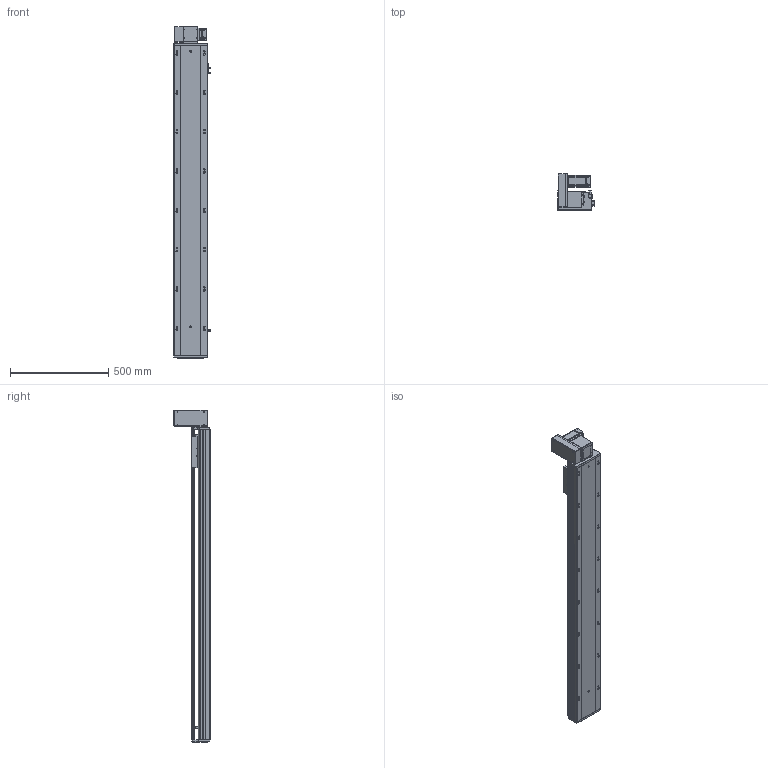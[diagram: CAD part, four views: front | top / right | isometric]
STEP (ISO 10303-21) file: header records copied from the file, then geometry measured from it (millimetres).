
FILE_DESCRIPTION (( 'STEP AP203' ), '1' );
FILE_NAME ('RY170-T-300-UL-P400W.SLDASM_1300.step', '2021-03-02T02:13:17', ( '盈信电脑' ), ( '东莞市道滘镇水果街19号' ), 'SwSTEP 2.0', 'SolidWorks 2012', '' );
FILE_SCHEMA (( 'CONFIG_CONTROL_DESIGN' ));
Products named in the file (18): RY170-T蹟翐M4; RY170同步轮电机安装板(400W); RY170-T-300-UL-P400W.SLDASM_1300; 15; RY170-T肮祭謫裔啣; RY120-T主同步轮轴承压盖; RY170肮祭謫萇儂欶; 滅袉蝶18-10; RY170肮祭謫ヶ裔啣; RY170-T肮祭湍揤踡輸2; RY170翋肮祭謫釱; RY170-T肮祭湍揤踡輸1; RY170外置感应片(200共用）; RY170綴裔啣; 覜茼ん672; RY170-T-300肮祭謫倰第菁釱-DL_1300; RY170肮祭湍臏賑輸; RY170-T-300肮祭謫倰第裔啣-DL_1300
Assembly tree (20 placements, depth 2):
  RY170-T-300-UL-P400W.SLDASM_1300
    RY170-T-300肮祭謫倰第菁釱-DL_1300
    RY170肮祭湍臏賑輸
    RY170-T-300肮祭謫倰第裔啣-DL_1300
    RY170綴裔啣
    覜茼ん672  x3
    RY170外置感应片(200共用）
    RY170肮祭謫ヶ裔啣
    RY170翋肮祭謫釱
    RY170-T肮祭湍揤踡輸1
    RY170-T肮祭湍揤踡輸2
    RY170-T肮祭謫裔啣
    滅袉蝶18-10  x2
    RY120-T主同步轮轴承压盖
    RY170肮祭謫萇儂欶
    RY170同步轮电机安装板(400W)
    RY170-T蹟翐M4
    15
Bounding box: 183.7 x 184 x 1688 mm (x, y, z)
Volume: 8133917.7 mm3; surface area: 2764739.2 mm2
Topology: 20 solids, 20 shells, 2633 faces, 7334 edges, 4681 vertices
Faces by surface type: cylinder 1196, plane 1147, cone 260, bspline 30
Entity records: 83720 total; most frequent: CARTESIAN_POINT 18653, ORIENTED_EDGE 13264, DIRECTION 13076, EDGE_CURVE 6632, AXIS2_PLACEMENT_3D 4606, VERTEX_POINT 4349, LINE 3864, VECTOR 3864
